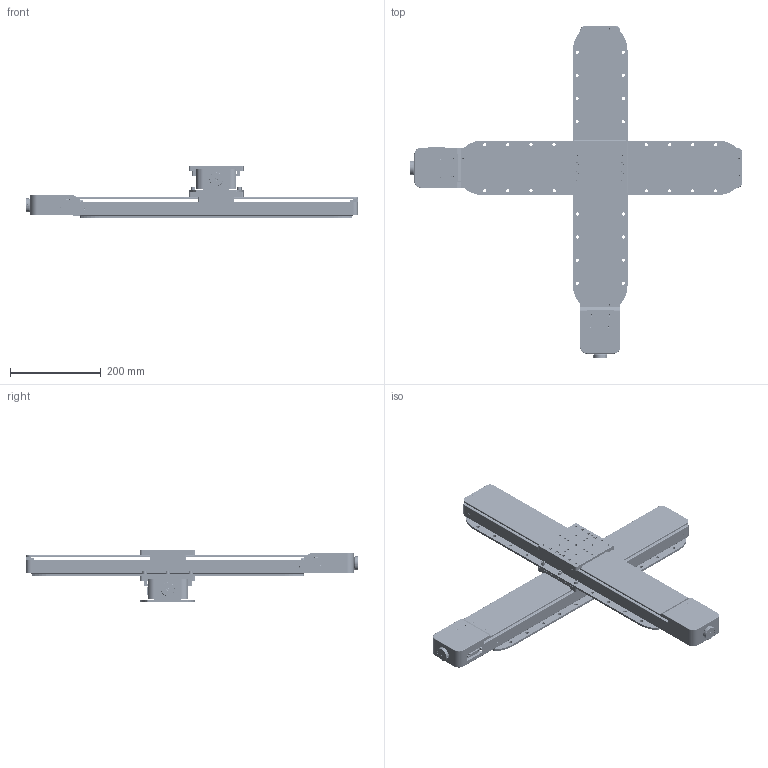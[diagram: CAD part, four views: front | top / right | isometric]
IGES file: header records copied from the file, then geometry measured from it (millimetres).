
Global section: file name: No Iges File Name specified; native system: AutoDesk Inventor R12.0; preprocessor: AutoDesk Inventor Iges Exporter R12.0; date: 20140324.160738; units: millimetre
Bounding box: 730.3 x 730.3 x 114.4 mm (x, y, z)
Volume: 2987978.7 mm3; surface area: 1424958.1 mm2
Topology: 4 solids, 210 shells, 6244 faces, 15318 edges, 9618 vertices
Faces by surface type: plane 3142, bspline 1288, cylinder 886, cone 540, revolution 332, torus 48, sphere 8
